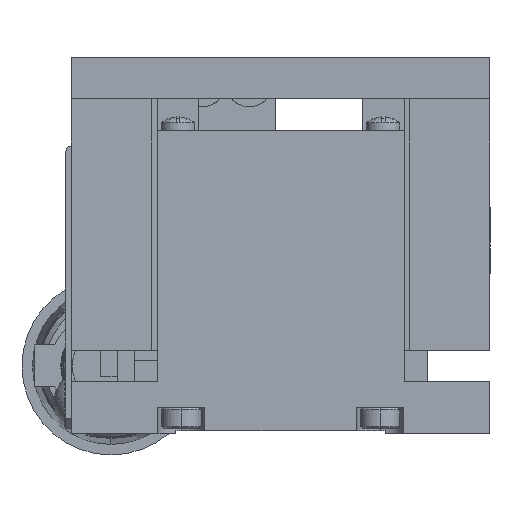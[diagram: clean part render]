
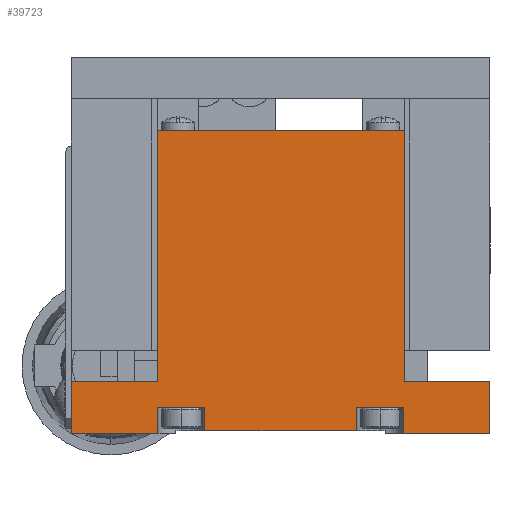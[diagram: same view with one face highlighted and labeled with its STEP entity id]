
A CAD part, left-side view. The second image highlights one B-rep face of the part: STEP entity #39723.
In plain terms, the highlighted planar face has unit normal (-1, 0, 0).
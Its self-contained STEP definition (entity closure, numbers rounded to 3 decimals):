
#229 = EDGE_CURVE ( 'NONE', #1070, #6914, #27625, .T. ) ;
#1070 = VERTEX_POINT ( 'NONE', #23386 ) ;
#1206 = EDGE_CURVE ( 'NONE', #30154, #42559, #19579, .T. ) ;
#1438 = CARTESIAN_POINT ( 'NONE',  ( -20., 11.75, 0. ) ) ;
#1669 = ORIENTED_EDGE ( 'NONE', *, *, #27702, .T. ) ;
#2284 = CARTESIAN_POINT ( 'NONE',  ( -20., 7.25, 0.3 ) ) ;
#3025 = EDGE_CURVE ( 'NONE', #22321, #7382, #41855, .T. ) ;
#3104 = VECTOR ( 'NONE', #43706, 1000. ) ;
#3471 = LINE ( 'NONE', #42336, #33410 ) ;
#3489 = EDGE_CURVE ( 'NONE', #39869, #1070, #17279, .T. ) ;
#3775 = CARTESIAN_POINT ( 'NONE',  ( -20., 11.75, 2.5 ) ) ;
#3961 = LINE ( 'NONE', #25428, #18636 ) ;
#4062 = EDGE_CURVE ( 'NONE', #39219, #12766, #14519, .T. ) ;
#4117 = VERTEX_POINT ( 'NONE', #7092 ) ;
#4449 = EDGE_CURVE ( 'NONE', #22321, #4117, #22624, .T. ) ;
#5121 = DIRECTION ( 'NONE',  ( 0., 0., 1. ) ) ;
#5280 = VECTOR ( 'NONE', #13634, 1000. ) ;
#5315 = EDGE_CURVE ( 'NONE', #12766, #18617, #6773, .T. ) ;
#5745 = CARTESIAN_POINT ( 'NONE',  ( -20., 20., 0. ) ) ;
#5798 = VECTOR ( 'NONE', #34638, 1000. ) ;
#6245 = CARTESIAN_POINT ( 'NONE',  ( -20., -11.8, 29. ) ) ;
#6430 = DIRECTION ( 'NONE',  ( 0., 0., 1. ) ) ;
#6773 = LINE ( 'NONE', #26396, #13332 ) ;
#6914 = VERTEX_POINT ( 'NONE', #8931 ) ;
#6942 = VECTOR ( 'NONE', #13689, 1000. ) ;
#7092 = CARTESIAN_POINT ( 'NONE',  ( -20., 20., 5. ) ) ;
#7382 = VERTEX_POINT ( 'NONE', #15814 ) ;
#7902 = EDGE_LOOP ( 'NONE', ( #22803, #12372, #11040, #1669, #27546, #11446, #30597, #26133, #16736, #18234, #39618, #43398, #30477, #30141, #17785, #44874 ) ) ;
#8100 = DIRECTION ( 'NONE',  ( 0., -1., 0. ) ) ;
#8715 = LINE ( 'NONE', #15475, #28821 ) ;
#8931 = CARTESIAN_POINT ( 'NONE',  ( -20., -7.25, 2.5 ) ) ;
#9237 = EDGE_CURVE ( 'NONE', #38223, #4117, #10042, .T. ) ;
#9377 = DIRECTION ( 'NONE',  ( 0., -1., 0. ) ) ;
#9507 = DIRECTION ( 'NONE',  ( 0., 1., 0. ) ) ;
#10018 = FACE_OUTER_BOUND ( 'NONE', #7902, .T. ) ;
#10042 = LINE ( 'NONE', #36327, #24718 ) ;
#10394 = CARTESIAN_POINT ( 'NONE',  ( -20., 7.25, 2.5 ) ) ;
#10691 = EDGE_CURVE ( 'NONE', #42559, #7382, #3471, .T. ) ;
#11040 = ORIENTED_EDGE ( 'NONE', *, *, #9237, .F. ) ;
#11446 = ORIENTED_EDGE ( 'NONE', *, *, #5315, .T. ) ;
#11842 = DIRECTION ( 'NONE',  ( -1., 0., 0. ) ) ;
#12215 = VECTOR ( 'NONE', #21963, 1000. ) ;
#12372 = ORIENTED_EDGE ( 'NONE', *, *, #4449, .T. ) ;
#12766 = VERTEX_POINT ( 'NONE', #3775 ) ;
#13332 = VECTOR ( 'NONE', #9377, 1000. ) ;
#13634 = DIRECTION ( 'NONE',  ( 0., 0., 1. ) ) ;
#13689 = DIRECTION ( 'NONE',  ( 0., -1., 0. ) ) ;
#14080 = CARTESIAN_POINT ( 'NONE',  ( -20., -11.75, 0. ) ) ;
#14519 = LINE ( 'NONE', #37692, #5280 ) ;
#14646 = VERTEX_POINT ( 'NONE', #22017 ) ;
#15447 = VERTEX_POINT ( 'NONE', #37204 ) ;
#15475 = CARTESIAN_POINT ( 'NONE',  ( -20., 7.25, 0. ) ) ;
#15814 = CARTESIAN_POINT ( 'NONE',  ( -20., 11.8, 29. ) ) ;
#16736 = ORIENTED_EDGE ( 'NONE', *, *, #229, .T. ) ;
#16858 = VERTEX_POINT ( 'NONE', #22724 ) ;
#17279 = LINE ( 'NONE', #34999, #6942 ) ;
#17785 = ORIENTED_EDGE ( 'NONE', *, *, #1206, .T. ) ;
#17855 = VECTOR ( 'NONE', #23318, 1000. ) ;
#18234 = ORIENTED_EDGE ( 'NONE', *, *, #30382, .T. ) ;
#18617 = VERTEX_POINT ( 'NONE', #10394 ) ;
#18636 = VECTOR ( 'NONE', #8100, 1000. ) ;
#18972 = VECTOR ( 'NONE', #6430, 1000. ) ;
#19497 = CARTESIAN_POINT ( 'NONE',  ( -20., 0., 5. ) ) ;
#19579 = LINE ( 'NONE', #34976, #26129 ) ;
#21539 = EDGE_CURVE ( 'NONE', #45021, #14646, #3961, .T. ) ;
#21691 = LINE ( 'NONE', #26866, #30991 ) ;
#21963 = DIRECTION ( 'NONE',  ( 0., -1., 0. ) ) ;
#21996 = CARTESIAN_POINT ( 'NONE',  ( -20., 0., 0.3 ) ) ;
#22017 = CARTESIAN_POINT ( 'NONE',  ( -20., -20., 0. ) ) ;
#22153 = PLANE ( 'NONE',  #42848 ) ;
#22321 = VERTEX_POINT ( 'NONE', #28134 ) ;
#22476 = LINE ( 'NONE', #26826, #27385 ) ;
#22624 = LINE ( 'NONE', #19497, #3104 ) ;
#22724 = CARTESIAN_POINT ( 'NONE',  ( -20., -20., 5. ) ) ;
#22803 = ORIENTED_EDGE ( 'NONE', *, *, #3025, .F. ) ;
#23318 = DIRECTION ( 'NONE',  ( 0., 0., 1. ) ) ;
#23386 = CARTESIAN_POINT ( 'NONE',  ( -20., -7.25, 0.3 ) ) ;
#24534 = EDGE_CURVE ( 'NONE', #14646, #16858, #38504, .T. ) ;
#24718 = VECTOR ( 'NONE', #5121, 1000. ) ;
#25001 = EDGE_CURVE ( 'NONE', #45021, #15447, #27014, .T. ) ;
#25046 = DIRECTION ( 'NONE',  ( 0., 0., 1. ) ) ;
#25364 = CARTESIAN_POINT ( 'NONE',  ( -20., -20., 0.3 ) ) ;
#25428 = CARTESIAN_POINT ( 'NONE',  ( -20., -15., 0. ) ) ;
#25776 = CARTESIAN_POINT ( 'NONE',  ( -20., 15., 0. ) ) ;
#26104 = DIRECTION ( 'NONE',  ( 0., 0., 1. ) ) ;
#26129 = VECTOR ( 'NONE', #27954, 1000. ) ;
#26133 = ORIENTED_EDGE ( 'NONE', *, *, #3489, .T. ) ;
#26396 = CARTESIAN_POINT ( 'NONE',  ( -20., 11.75, 2.5 ) ) ;
#26826 = CARTESIAN_POINT ( 'NONE',  ( -20., 0., 5. ) ) ;
#26866 = CARTESIAN_POINT ( 'NONE',  ( -20., -7.25, 2.5 ) ) ;
#27014 = LINE ( 'NONE', #14080, #5798 ) ;
#27296 = CARTESIAN_POINT ( 'NONE',  ( -20., -7.25, 0. ) ) ;
#27385 = VECTOR ( 'NONE', #9507, 1000. ) ;
#27424 = LINE ( 'NONE', #25776, #12215 ) ;
#27546 = ORIENTED_EDGE ( 'NONE', *, *, #4062, .T. ) ;
#27625 = LINE ( 'NONE', #27296, #17855 ) ;
#27702 = EDGE_CURVE ( 'NONE', #38223, #39219, #27424, .T. ) ;
#27954 = DIRECTION ( 'NONE',  ( 0., 0., 1. ) ) ;
#27972 = EDGE_CURVE ( 'NONE', #16858, #30154, #22476, .T. ) ;
#28134 = CARTESIAN_POINT ( 'NONE',  ( -20., 11.8, 5. ) ) ;
#28821 = VECTOR ( 'NONE', #26104, 1000. ) ;
#29477 = DIRECTION ( 'NONE',  ( 0., 0., 1. ) ) ;
#30141 = ORIENTED_EDGE ( 'NONE', *, *, #27972, .T. ) ;
#30154 = VERTEX_POINT ( 'NONE', #35437 ) ;
#30171 = EDGE_CURVE ( 'NONE', #39869, #18617, #8715, .T. ) ;
#30382 = EDGE_CURVE ( 'NONE', #6914, #15447, #21691, .T. ) ;
#30477 = ORIENTED_EDGE ( 'NONE', *, *, #24534, .T. ) ;
#30597 = ORIENTED_EDGE ( 'NONE', *, *, #30171, .F. ) ;
#30991 = VECTOR ( 'NONE', #33596, 1000. ) ;
#31875 = DIRECTION ( 'NONE',  ( 0., 1., 0. ) ) ;
#33410 = VECTOR ( 'NONE', #31875, 1000. ) ;
#33596 = DIRECTION ( 'NONE',  ( 0., -1., 0. ) ) ;
#34638 = DIRECTION ( 'NONE',  ( 0., 0., 1. ) ) ;
#34976 = CARTESIAN_POINT ( 'NONE',  ( -20., -11.8, 5. ) ) ;
#34999 = CARTESIAN_POINT ( 'NONE',  ( -20., 0., 0.3 ) ) ;
#35437 = CARTESIAN_POINT ( 'NONE',  ( -20., -11.8, 5. ) ) ;
#36327 = CARTESIAN_POINT ( 'NONE',  ( -20., 20., 0.3 ) ) ;
#37204 = CARTESIAN_POINT ( 'NONE',  ( -20., -11.75, 2.5 ) ) ;
#37692 = CARTESIAN_POINT ( 'NONE',  ( -20., 11.75, 0. ) ) ;
#38223 = VERTEX_POINT ( 'NONE', #5745 ) ;
#38504 = LINE ( 'NONE', #25364, #40677 ) ;
#39219 = VERTEX_POINT ( 'NONE', #1438 ) ;
#39618 = ORIENTED_EDGE ( 'NONE', *, *, #25001, .F. ) ;
#39723 = ADVANCED_FACE ( 'NONE', ( #10018 ), #22153, .T. ) ;
#39869 = VERTEX_POINT ( 'NONE', #2284 ) ;
#40677 = VECTOR ( 'NONE', #25046, 1000. ) ;
#41275 = CARTESIAN_POINT ( 'NONE',  ( -20., -11.75, 0. ) ) ;
#41403 = CARTESIAN_POINT ( 'NONE',  ( -20., 11.8, 5. ) ) ;
#41855 = LINE ( 'NONE', #41403, #18972 ) ;
#42336 = CARTESIAN_POINT ( 'NONE',  ( -20., -11.8, 29. ) ) ;
#42559 = VERTEX_POINT ( 'NONE', #6245 ) ;
#42848 = AXIS2_PLACEMENT_3D ( 'NONE', #21996, #11842, #29477 ) ;
#43398 = ORIENTED_EDGE ( 'NONE', *, *, #21539, .T. ) ;
#43706 = DIRECTION ( 'NONE',  ( 0., 1., 0. ) ) ;
#44874 = ORIENTED_EDGE ( 'NONE', *, *, #10691, .T. ) ;
#45021 = VERTEX_POINT ( 'NONE', #41275 ) ;
